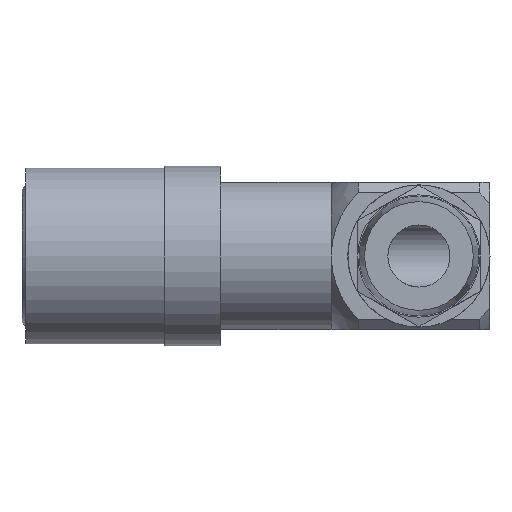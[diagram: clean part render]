
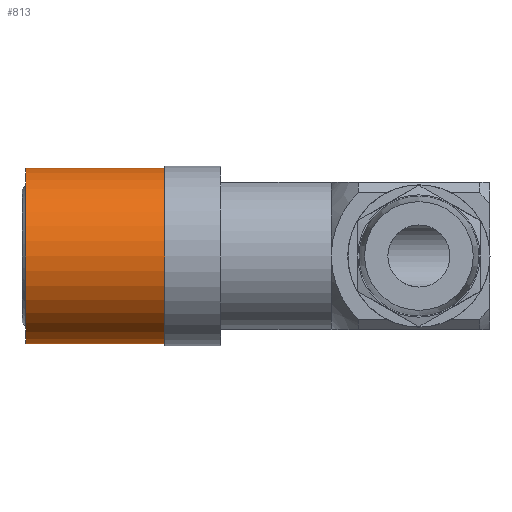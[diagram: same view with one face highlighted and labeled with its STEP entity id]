
A CAD part, front view. The second image highlights one B-rep face of the part: STEP entity #813.
In plain terms, the highlighted cylindrical face has radius 8.5 mm (diameter 17 mm), a full revolution.
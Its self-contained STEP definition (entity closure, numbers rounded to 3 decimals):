
#216=ORIENTED_EDGE('',*,*,#422,.F.);
#217=ORIENTED_EDGE('',*,*,#421,.T.);
#421=EDGE_CURVE('',#518,#518,#596,.T.);
#422=EDGE_CURVE('',#519,#519,#597,.T.);
#518=VERTEX_POINT('',#1417);
#519=VERTEX_POINT('',#1420);
#596=CIRCLE('',#928,8.5);
#597=CIRCLE('',#930,8.5);
#641=EDGE_LOOP('',(#216));
#642=EDGE_LOOP('',(#217));
#725=FACE_BOUND('',#641,.T.);
#726=FACE_BOUND('',#642,.T.);
#790=CYLINDRICAL_SURFACE('',#929,8.5);
#813=ADVANCED_FACE('',(#725,#726),#790,.T.);
#928=AXIS2_PLACEMENT_3D('',#1416,#1126,#1127);
#929=AXIS2_PLACEMENT_3D('',#1418,#1128,#1129);
#930=AXIS2_PLACEMENT_3D('',#1419,#1130,#1131);
#1126=DIRECTION('',(1.,0.,0.));
#1127=DIRECTION('',(0.,0.,-1.));
#1128=DIRECTION('',(1.,0.,0.));
#1129=DIRECTION('',(0.,0.,-1.));
#1130=DIRECTION('',(1.,0.,0.));
#1131=DIRECTION('',(0.,0.,-1.));
#1416=CARTESIAN_POINT('',(0.,0.,0.));
#1417=CARTESIAN_POINT('',(0.,0.,-8.5));
#1418=CARTESIAN_POINT('',(49.053,0.,0.));
#1419=CARTESIAN_POINT('',(13.462,0.,0.));
#1420=CARTESIAN_POINT('',(13.462,0.,-8.5));
